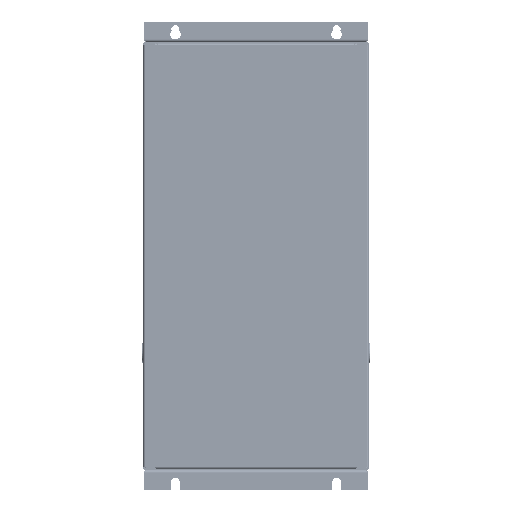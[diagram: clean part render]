
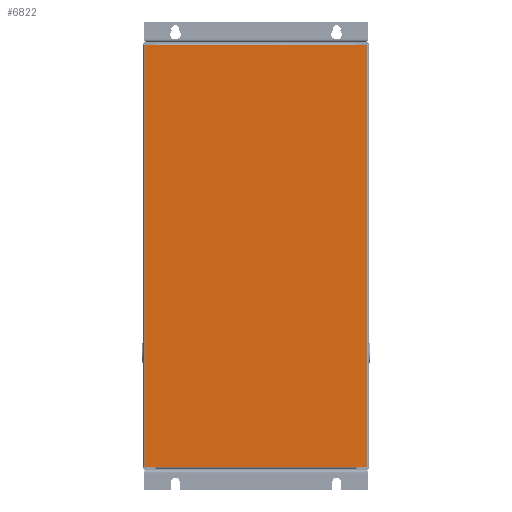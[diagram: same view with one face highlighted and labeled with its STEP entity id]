
A CAD part, left-side view. The second image highlights one B-rep face of the part: STEP entity #6822.
In plain terms, the highlighted planar face has unit normal (-1, 0, 0).
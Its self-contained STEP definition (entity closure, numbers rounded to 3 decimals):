
#6822=ADVANCED_FACE('',(#43535),#43537,.F.);
#43535=FACE_BOUND('',#43536,.T.);
#43536=EDGE_LOOP('',(#78531,#78532,#78533,#78534));
#43537=PLANE('',#43538);
#43538=AXIS2_PLACEMENT_3D('',#43539,#43540,#43541);
#43539=CARTESIAN_POINT('',(0.,0.,0.));
#43540=DIRECTION('',(1.,0.,0.));
#43541=DIRECTION('',(0.,1.,0.));
#78531=ORIENTED_EDGE('',*,*,#100286,.T.);
#78532=ORIENTED_EDGE('',*,*,#100561,.T.);
#78533=ORIENTED_EDGE('',*,*,#100294,.T.);
#78534=ORIENTED_EDGE('',*,*,#100602,.T.);
#100286=EDGE_CURVE('',#111763,#111761,#111764,.T.);
#100294=EDGE_CURVE('',#111778,#111776,#111779,.T.);
#100561=EDGE_CURVE('',#111761,#111778,#112051,.T.);
#100602=EDGE_CURVE('',#111776,#111763,#112119,.T.);
#111761=VERTEX_POINT('',#130992);
#111763=VERTEX_POINT('',#130997);
#111764=LINE('',#130998,#130999);
#111776=VERTEX_POINT('',#131026);
#111778=VERTEX_POINT('',#131031);
#111779=LINE('',#131032,#131033);
#112051=LINE('',#131844,#131845);
#112119=LINE('',#132011,#132012);
#130992=CARTESIAN_POINT('',(0.,137.5,261.5));
#130997=CARTESIAN_POINT('',(0.,-137.5,261.5));
#130998=CARTESIAN_POINT('',(0.,-137.5,261.5));
#130999=VECTOR('',#131000,1.);
#131000=DIRECTION('',(0.,1.,0.));
#131026=CARTESIAN_POINT('',(0.,-137.5,-261.5));
#131031=CARTESIAN_POINT('',(0.,137.5,-261.5));
#131032=CARTESIAN_POINT('',(0.,137.5,-261.5));
#131033=VECTOR('',#131034,1.);
#131034=DIRECTION('',(0.,-1.,0.));
#131844=CARTESIAN_POINT('',(0.,137.5,261.5));
#131845=VECTOR('',#131846,1.);
#131846=DIRECTION('',(0.,0.,-1.));
#132011=CARTESIAN_POINT('',(0.,-137.5,-261.5));
#132012=VECTOR('',#132013,1.);
#132013=DIRECTION('',(0.,0.,1.));
